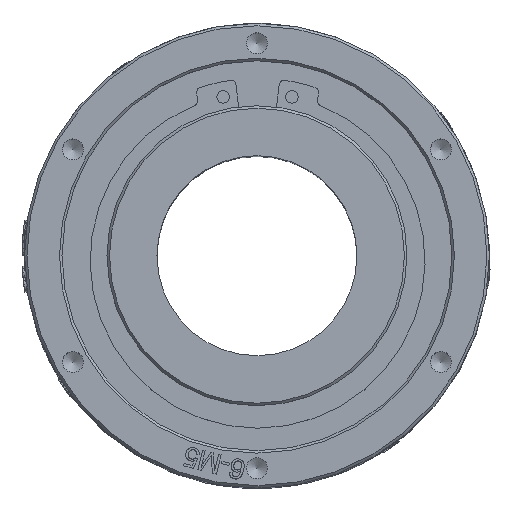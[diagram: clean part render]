
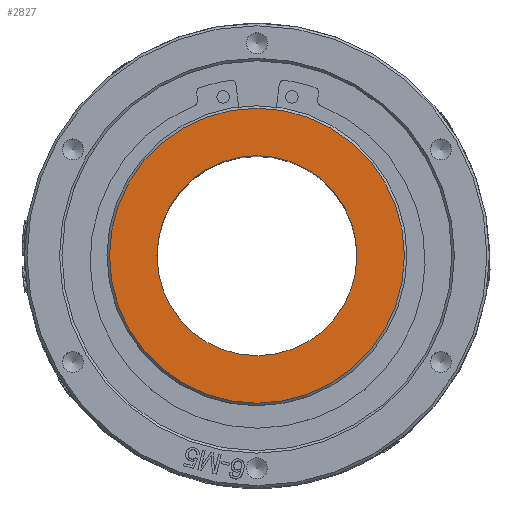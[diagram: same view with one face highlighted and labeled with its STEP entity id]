
A CAD part, top view. The second image highlights one B-rep face of the part: STEP entity #2827.
In plain terms, the highlighted planar face has unit normal (0, 0, 1).
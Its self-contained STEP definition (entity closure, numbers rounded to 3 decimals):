
#460=FACE_BOUND('',#8319,.T.);
#461=FACE_BOUND('',#8320,.T.);
#602=CIRCLE('',#29207,20.);
#677=CIRCLE('',#29369,29.5);
#1201=PLANE('',#29370);
#2827=ADVANCED_FACE('',(#460,#461),#1201,.T.);
#8319=EDGE_LOOP('',(#13575));
#8320=EDGE_LOOP('',(#13576));
#13575=ORIENTED_EDGE('',*,*,#22690,.T.);
#13576=ORIENTED_EDGE('',*,*,#23127,.T.);
#19050=VERTEX_POINT('',#49703);
#19485=VERTEX_POINT('',#51358);
#22690=EDGE_CURVE('',#19050,#19050,#602,.T.);
#23127=EDGE_CURVE('',#19485,#19485,#677,.T.);
#29207=AXIS2_PLACEMENT_3D('',#49702,#31390,#31391);
#29369=AXIS2_PLACEMENT_3D('',#51357,#31866,#31867);
#29370=AXIS2_PLACEMENT_3D('',#51359,#31868,#31869);
#31390=DIRECTION('',(0.,0.,-1.));
#31391=DIRECTION('',(-1.,0.,0.));
#31866=DIRECTION('',(0.,0.,1.));
#31867=DIRECTION('',(1.,0.,0.));
#31868=DIRECTION('',(0.,0.,1.));
#31869=DIRECTION('',(1.,0.,0.));
#49702=CARTESIAN_POINT('',(0.,0.,
88.5));
#49703=CARTESIAN_POINT('',(-20.,0.,88.5));
#51357=CARTESIAN_POINT('',(0.,0.,
88.5));
#51358=CARTESIAN_POINT('',(29.5,0.,88.5));
#51359=CARTESIAN_POINT('',(0.,0.,
88.5));
